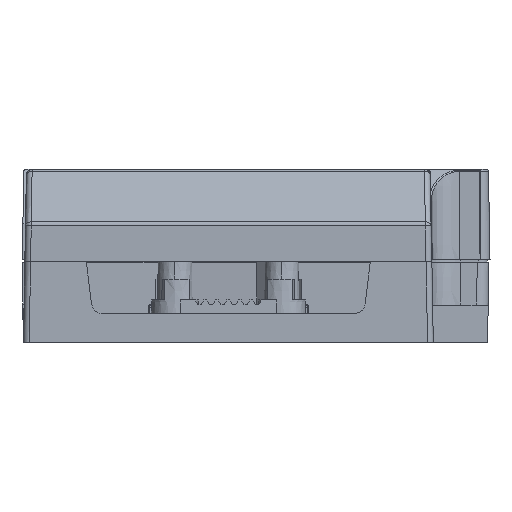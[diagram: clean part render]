
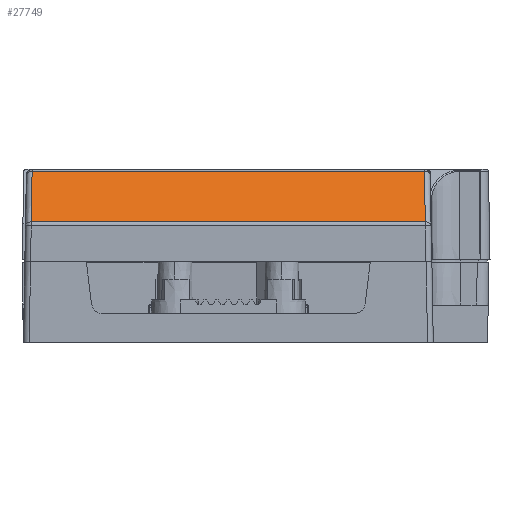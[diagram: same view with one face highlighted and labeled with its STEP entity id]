
A CAD part, front view. The second image highlights one B-rep face of the part: STEP entity #27749.
In plain terms, the highlighted planar face has unit normal (0, -0.707, 0.707).
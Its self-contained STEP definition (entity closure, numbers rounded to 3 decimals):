
#833 = EDGE_CURVE ( 'NONE', #4279, #12811, #22590, .T. ) ;
#2207 = VECTOR ( 'NONE', #5999, 1000. ) ;
#3078 = LINE ( 'NONE', #19842, #2207 ) ;
#3183 = DIRECTION ( 'NONE',  ( 0., -0.707, 0.707 ) ) ;
#4279 = VERTEX_POINT ( 'NONE', #4952 ) ;
#4952 = CARTESIAN_POINT ( 'NONE',  ( 8.722, -23.376, 93.775 ) ) ;
#5649 = VERTEX_POINT ( 'NONE', #24824 ) ;
#5663 = CARTESIAN_POINT ( 'NONE',  ( 78.114, -23.376, 93.775 ) ) ;
#5999 = DIRECTION ( 'NONE',  ( -0.012, -0.707, -0.707 ) ) ;
#9143 = ORIENTED_EDGE ( 'NONE', *, *, #22235, .F. ) ;
#9492 = VERTEX_POINT ( 'NONE', #10587 ) ;
#10587 = CARTESIAN_POINT ( 'NONE',  ( 8.876, -14.57, 102.581 ) ) ;
#10880 = CARTESIAN_POINT ( 'NONE',  ( 77.006, -23.376, 93.775 ) ) ;
#12811 = VERTEX_POINT ( 'NONE', #20171 ) ;
#13283 = FACE_OUTER_BOUND ( 'NONE', #17542, .T. ) ;
#14226 = PLANE ( 'NONE',  #24808 ) ;
#16075 = VECTOR ( 'NONE', #27207, 1000. ) ;
#17542 = EDGE_LOOP ( 'NONE', ( #34221, #33466, #9143, #27889 ) ) ;
#19805 = CARTESIAN_POINT ( 'NONE',  ( 78.114, -23.777, 93.374 ) ) ;
#19842 = CARTESIAN_POINT ( 'NONE',  ( 8.876, -14.57, 102.581 ) ) ;
#20171 = CARTESIAN_POINT ( 'NONE',  ( 77.006, -23.376, 93.775 ) ) ;
#22235 = EDGE_CURVE ( 'NONE', #9492, #5649, #27905, .T. ) ;
#22590 = LINE ( 'NONE', #5663, #16075 ) ;
#22629 = DIRECTION ( 'NONE',  ( 0., 0.707, 0.707 ) ) ;
#22839 = EDGE_CURVE ( 'NONE', #12811, #5649, #33516, .T. ) ;
#22965 = EDGE_CURVE ( 'NONE', #9492, #4279, #3078, .T. ) ;
#24808 = AXIS2_PLACEMENT_3D ( 'NONE', #19805, #3183, #22629 ) ;
#24824 = CARTESIAN_POINT ( 'NONE',  ( 76.852, -14.57, 102.581 ) ) ;
#26147 = VECTOR ( 'NONE', #33123, 1000. ) ;
#27070 = VECTOR ( 'NONE', #32793, 1000. ) ;
#27207 = DIRECTION ( 'NONE',  ( 1., 0., 0. ) ) ;
#27749 = ADVANCED_FACE ( 'NONE', ( #13283 ), #14226, .T. ) ;
#27889 = ORIENTED_EDGE ( 'NONE', *, *, #22965, .T. ) ;
#27905 = LINE ( 'NONE', #30119, #27070 ) ;
#30119 = CARTESIAN_POINT ( 'NONE',  ( 7.76, -14.57, 102.581 ) ) ;
#32793 = DIRECTION ( 'NONE',  ( 1., 0., 0. ) ) ;
#33123 = DIRECTION ( 'NONE',  ( -0.012, 0.707, 0.707 ) ) ;
#33466 = ORIENTED_EDGE ( 'NONE', *, *, #22839, .T. ) ;
#33516 = LINE ( 'NONE', #10880, #26147 ) ;
#34221 = ORIENTED_EDGE ( 'NONE', *, *, #833, .T. ) ;
